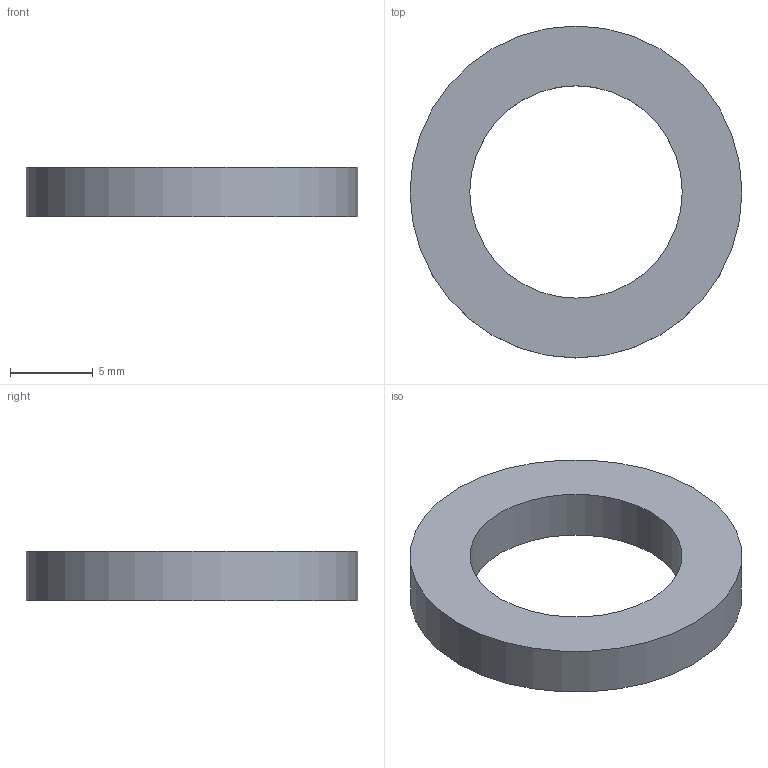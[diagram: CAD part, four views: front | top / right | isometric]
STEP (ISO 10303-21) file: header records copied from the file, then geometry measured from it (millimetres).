
FILE_DESCRIPTION(('Open CASCADE Model'),'2;1');
FILE_NAME('Open CASCADE Shape Model','2026-10-04T02:31:40',('Author'),( 'Open CASCADE'),'Open CASCADE STEP processor 8.0','Open CASCADE 8.0' ,'Unknown');
FILE_SCHEMA(('AUTOMOTIVE_DESIGN { 1 0 10303 214 1 1 1 1 }'));
Length unit declared in the file: millimetre
Products named in the file (1): Open CASCADE STEP translator 8.0 212
Bounding box: 20 x 20 x 3 mm (x, y, z)
Volume: 556.4 mm3; surface area: 680.1 mm2
Topology: 1 solids, 1 shells, 4 faces, 6 edges, 4 vertices
Faces by surface type: cylinder 2, plane 2
Full cylindrical faces by diameter (mm): 12.8 x1, 20 x1
Entity records: 186 total; most frequent: DIRECTION 32, CARTESIAN_POINT 27, ORIENTED_EDGE 12, PCURVE 12, DEFINITIONAL_REPRESENTATION 12, LINE 10, VECTOR 10, AXIS2_PLACEMENT_3D 9
